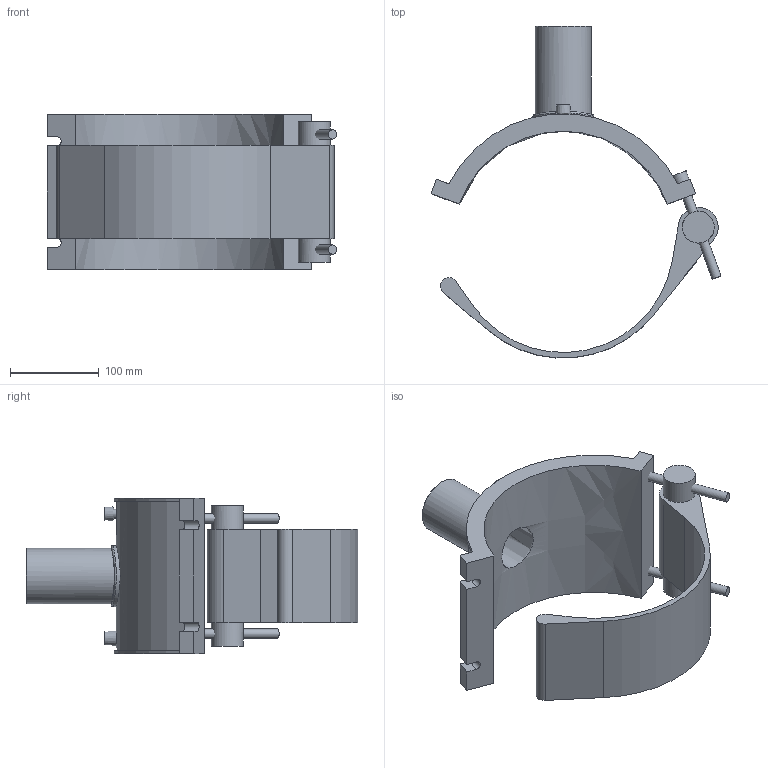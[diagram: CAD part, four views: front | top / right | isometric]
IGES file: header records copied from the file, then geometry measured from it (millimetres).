
Global section: file name: 495804250063.ipt; native system: Autodesk Inventor 2015; preprocessor: unknown; author: KIM; date: 20180426.120911; units: millimetre
Bounding box: 327.53 x 374.99 x 176 mm (x, y, z)
Volume: 1813510.4 mm3; surface area: 305631.8 mm2
Topology: 5 solids, 5 shells, 65 faces, 135 edges, 91 vertices
Faces by surface type: plane 37, cylinder 17, revolution 7, cone 3, bspline 1
Full cylindrical faces by diameter (mm): 4 x2, 10.5 x2, 17.5 x2, 36 x2, 63 x1, 69.3 x1
